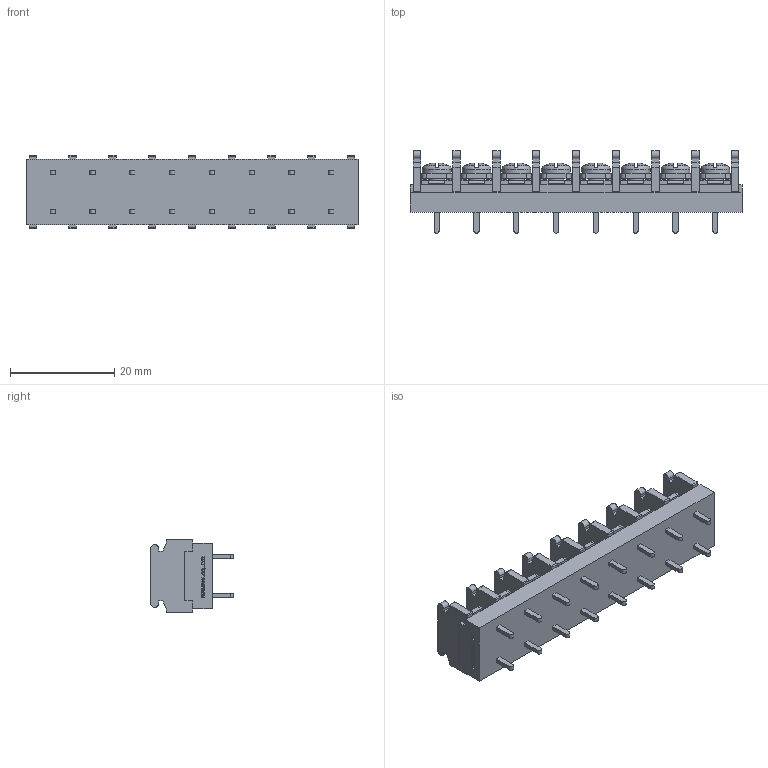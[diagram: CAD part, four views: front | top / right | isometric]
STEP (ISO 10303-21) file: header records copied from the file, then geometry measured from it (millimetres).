
FILE_DESCRIPTION(/* description */ ('Alibre Inc.'),/* implementation_level */ '2;1');
FILE_NAME(/* name */ 'export0',/* time_stamp */ '2015-10-23T20:18:42+09:00',/* author */ (''),/* organization */ (''),/* preprocessor_version */ 'ST-DEVELOPER v14',/* originating_system */ 'Alibre',/* authorisation */ '');
FILE_SCHEMA (('CONFIG_CONTROL_DESIGN'));
Length unit declared in the file: centimetre
Products named in the file (1): ID_1
Bounding box: 63.58 x 15.8 x 14 mm (x, y, z)
Volume: 6042.1 mm3; surface area: 5849 mm2
Topology: 1 solids, 1 shells, 1338 faces, 3652 edges, 2396 vertices
Faces by surface type: plane 1036, cylinder 134, bspline 104, cone 32, torus 16, sphere 16
Full cylindrical faces by diameter (mm): 3 x8, 5.5 x8
Entity records: 40125 total; most frequent: CARTESIAN_POINT 8555, ORIENTED_EDGE 7208, DIRECTION 5034, EDGE_CURVE 3604, VECTOR 2648, LINE 2648, VERTEX_POINT 2380, AXIS2_PLACEMENT_3D 1671
